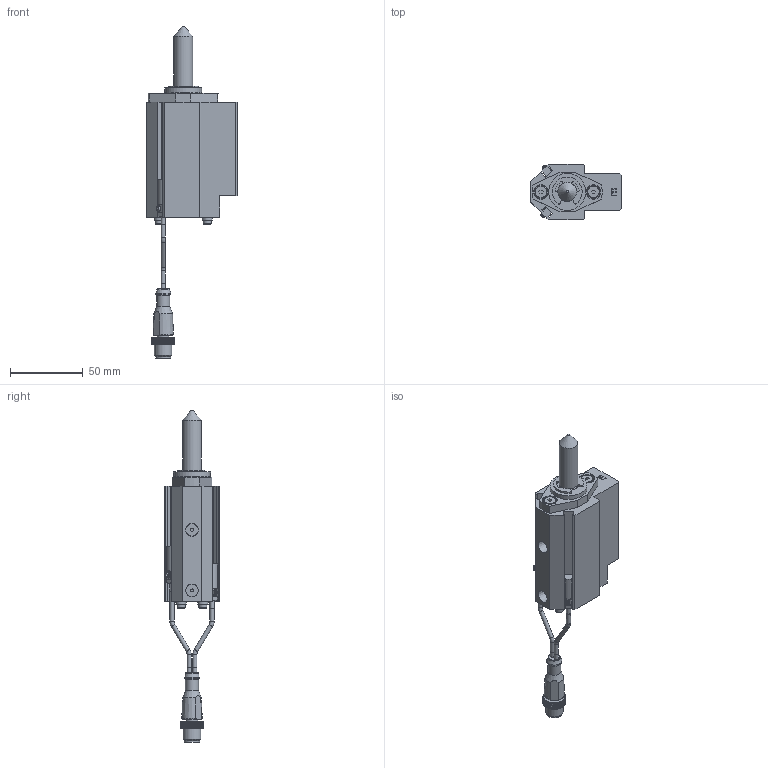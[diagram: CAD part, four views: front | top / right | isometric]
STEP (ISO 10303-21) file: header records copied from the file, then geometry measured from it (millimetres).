
FILE_DESCRIPTION(/* description */ ('NAAMS FLOATING MICRO PIN'),/* implementation_level */ '2;1');
FILE_NAME(/* name */ 'C:\Vault Workspace\CAD\Welker\Shot Pin\NMP\NMP130032AENL3.stp',/* time_stamp */ '2021-01-27T10:55:42-05:00',/* author */ ('WELKER'),/* organization */ (''),/* preprocessor_version */ 'ST-DEVELOPER v18.1',/* originating_system */ 'Autodesk Inventor 2020',/* authorisation */ '');
FILE_SCHEMA (('AUTOMOTIVE_DESIGN { 1 0 10303 214 3 1 1 }'));
Length unit declared in the file: millimetre
Products named in the file (16): NMPL01; NMP L3 SWITCH; L3 Connector; L3 Sensor 1; L3 Sensor 2; L3 Sensor cable; L3 Sensor cable 2; M3X0.5-8 SHCS; NL3; NMPE06; NMPE03; NMPE05-DIA-LENGTH; 985432A218; NMPE01E-PORT; RMPE02; M5X5 SHOULDER
Assembly tree (22 placements, depth 3):
  NMPL01
    NMP L3 SWITCH
      L3 Connector
      L3 Sensor 1
      L3 Sensor 2
      L3 Sensor cable
      L3 Sensor cable 2
    M3X0.5-8 SHCS  x4
    NL3  x4
    NMPE06
    NMPE03
    NMPE05-DIA-LENGTH
    985432A218
    NMPE01E-PORT
    RMPE02
    M5X5 SHOULDER  x2
Bounding box: 62 x 38.1 x 227.71 mm (x, y, z)
Volume: 116806.1 mm3; surface area: 45529 mm2
Topology: 21 solids, 21 shells, 746 faces, 2025 edges, 1353 vertices
Faces by surface type: plane 552, cylinder 143, cone 35, torus 11, sphere 3, bspline 2
Full cylindrical faces by diameter (mm): 2 x2, 2.459 x4, 2.9 x10, 3 x5, 3.242 x2, 3.4 x4, 4 x2, 5 x6, 5.5 x4, 6.647 x2, 7 x4, 8 x2, 8.3 x2, 9 x3, 10 x3, 10.4 x1, 10.5 x1, 12 x1, 13 x3, 16 x2, 19.05 x3, 21 x1, 22.5 x1, 23.672 x1, 24 x1, 25.4 x1, 25.5 x1, 26.5 x1, 28.677 x1, 29.21 x1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
Entity records: 22794 total; most frequent: CARTESIAN_POINT 4170, ORIENTED_EDGE 3742, DIRECTION 3723, EDGE_CURVE 1871, LINE 1387, VECTOR 1387, VERTEX_POINT 1258, AXIS2_PLACEMENT_3D 1168
